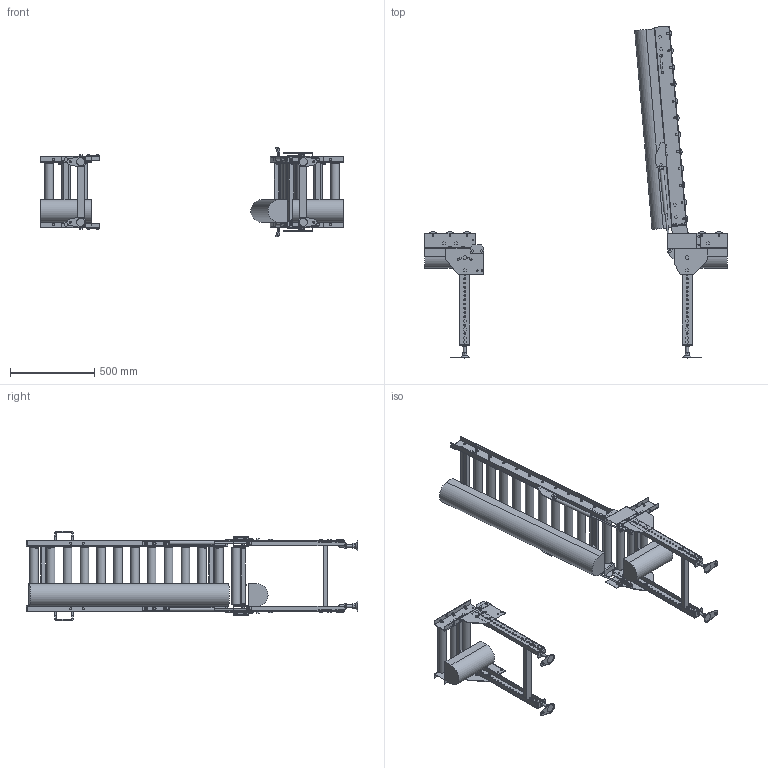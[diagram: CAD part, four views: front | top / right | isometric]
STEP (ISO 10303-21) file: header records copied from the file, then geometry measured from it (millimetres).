
FILE_DESCRIPTION (( 'STEP AP214' ), '1' );
FILE_NAME ('MCD50HU-R-355-100-12001.STEP', '2022-11-17T05:43:40', ( '' ), ( '' ), 'SwSTEP 2.0', 'SolidWorks 2017', '' );
FILE_SCHEMA (( 'AUTOMOTIVE_DESIGN' ));
Length unit declared in the file: millimetre
Products named in the file (1): MCD50HU-R-355-100-12001
Bounding box: 1791.65 x 1964.71 x 531.4 mm (x, y, z)
Volume: 42922605.2 mm3; surface area: 4389613.7 mm2
Topology: 5 solids, 31 shells, 2584 faces, 6406 edges, 4077 vertices
Faces by surface type: plane 2123, cylinder 443, cone 10, torus 8
Full cylindrical faces by diameter (mm): 8 x8, 8.5 x8, 9 x20, 10 x58, 10.5 x96, 11 x8, 12 x38, 13 x12, 14 x4, 15 x6, 15.4 x2, 15.7 x2, 16 x10, 17 x4, 18 x6, 18.4 x28, 18.5 x8, 21 x12, 22 x2, 50.8 x18
Entity records: 74470 total; most frequent: CARTESIAN_POINT 12724, DIRECTION 12450, ORIENTED_EDGE 11716, EDGE_CURVE 5858, VECTOR 4428, LINE 4428, AXIS2_PLACEMENT_3D 4011, VERTEX_POINT 3897
